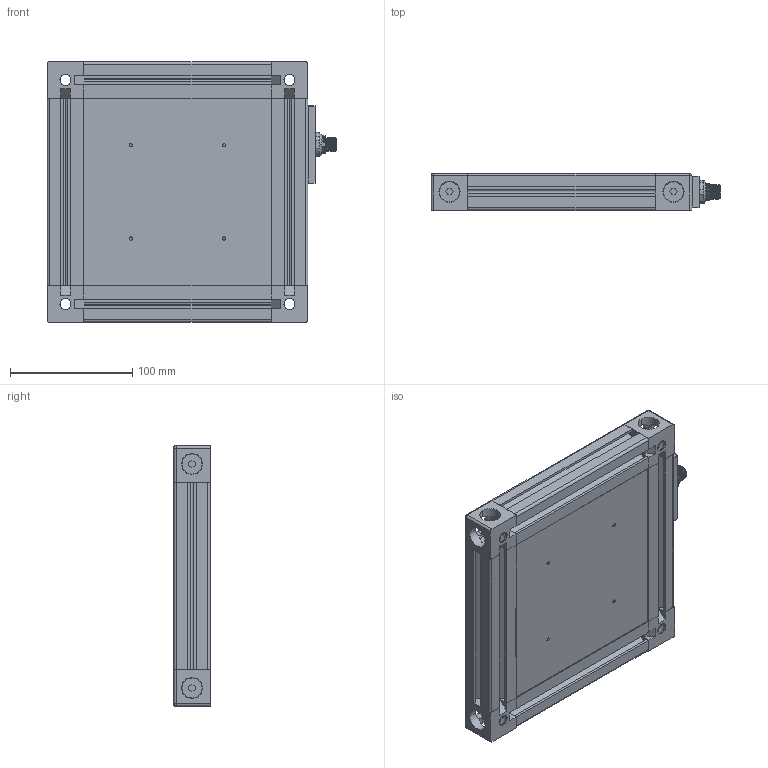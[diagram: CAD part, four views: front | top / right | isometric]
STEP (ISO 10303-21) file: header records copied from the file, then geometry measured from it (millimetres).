
FILE_DESCRIPTION (( 'STEP AP214' ), '1' );
FILE_NAME ('SOBL-150X150.step', '2020-07-02T15:56:35', ( '' ), ( '' ), 'SwSTEP 2.0', 'SolidWorks 2020', '' );
FILE_SCHEMA (( 'AUTOMOTIVE_DESIGN' ));
Length unit declared in the file: millimetre
Products named in the file (13): Screws -- short_FB08.0-015; SOBL-BP-(50-600)_153 x 153; SOBL-BC_150 x 150; M12_Male; Input Mounting Plate_STANDARD; Input Assembly; Corner Cube-30; BAR-30_153; Screw holder; 150mm LED Board; Screws_FB08.0-015; SOBL-150X150; M12 Nut
Assembly tree (27 placements, depth 3):
  SOBL-150X150
    Corner Cube-30  x4
    BAR-30_153  x4
    Screws_FB08.0-015  x8
    SOBL-BC_150 x 150
    Input Assembly
      M12_Male
      Input Mounting Plate_STANDARD
      Screws -- short_FB08.0-015  x2
      Screw holder  x2
      M12 Nut
    SOBL-BP-(50-600)_153 x 153
    150mm LED Board
Bounding box: 236.72 x 30 x 213 mm (x, y, z)
Volume: 488086.2 mm3; surface area: 414130.8 mm2
Topology: 26 solids, 27 shells, 1987 faces, 5183 edges, 3406 vertices
Faces by surface type: plane 1307, cylinder 494, cone 84, bspline 70, sphere 28, torus 4
Entity records: 71068 total; most frequent: CARTESIAN_POINT 28188, ORIENTED_EDGE 6864, DIRECTION 6230, EDGE_CURVE 3432, VECTOR 2626, LINE 2626, VERTEX_POINT 2272, AXIS2_PLACEMENT_3D 1802
